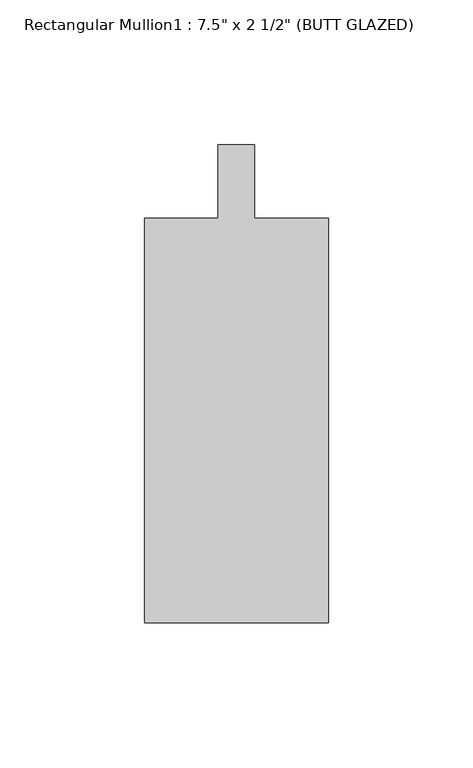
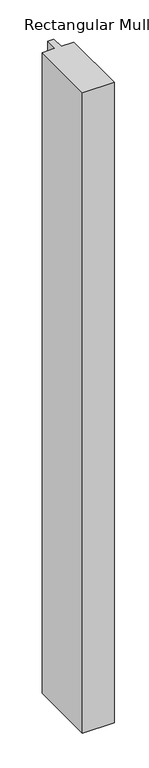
"""IFC4 building model written with IfcOpenShell, lengths in millimetres: member geometry."""

from ifc_helpers import new_model, si_unit, frame, origin, place, context, project, spatial, polyline, outline, extrude, source, transform, mapped, element, save


def member_e4b44ce2(model_context):
    return source(origin(), model_context, "Body", "SweptSolid", [
        extrude(outline(polyline([(31.75, -165.1), (-31.75, -165.1), (-31.75, -25.4), (-6.35, -25.4), (-6.35, 0.0), (6.35, 0.0), (6.35, -25.4), (31.75, -25.4), (31.75, -165.1)])), frame((0.0, 0.0, -1358.9), z_axis=(0.0, 0.0, 1.0), x_axis=(1.0, 0.0, 0.0)), (0.0, 0.0, 1.0), 1358.9),
    ])


if __name__ == "__main__":
    model = new_model("IFC4")
    model_context = context("Model", 3, world=origin())
    ifc_project = project(units=[si_unit("LENGTHUNIT", "METRE", prefix="MILLI")], contexts=[model_context])
    site = spatial("IfcSite", under=ifc_project)
    building = spatial("IfcBuilding", under=site)
    placement = place(None, origin())
    member_shape = member_e4b44ce2(model_context)
    element("IfcMember", 1, ObjectType="Rectangular Mullion1 : 7.5\" x 2 1/2\" (BUTT GLAZED)", at=placement, inside=building, context=model_context, shape_type="MappedRepresentation", body=[
        mapped(member_shape, transform((0.0, 0.0, 0.0), x_axis=(1.0, 0.0, 0.0), y_axis=(0.0, 1.0, 0.0), z_axis=(0.0, 0.0, 1.0))),
    ])
    save(model, "model.ifc")
